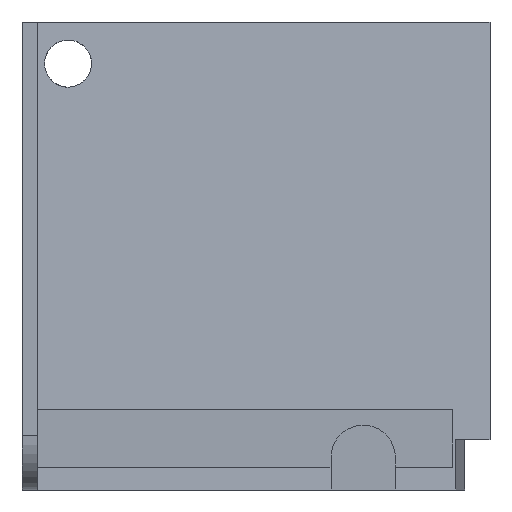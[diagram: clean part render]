
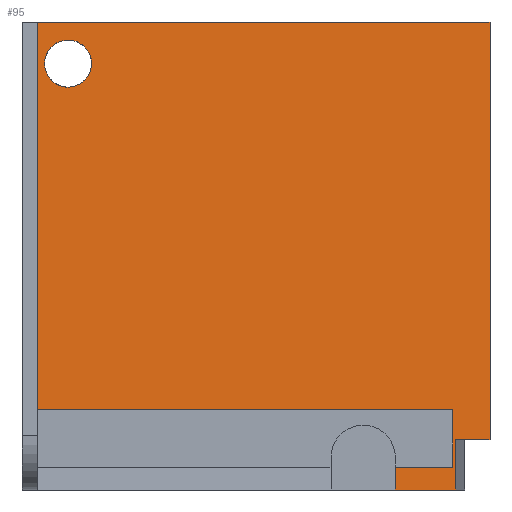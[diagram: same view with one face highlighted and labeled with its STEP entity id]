
A CAD part, left-side view. The second image highlights one B-rep face of the part: STEP entity #95.
In plain terms, the highlighted planar face has unit normal (-0.998, 0, 0.068).
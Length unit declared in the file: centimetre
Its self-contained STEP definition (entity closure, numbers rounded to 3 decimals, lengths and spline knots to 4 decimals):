
#19 = CARTESIAN_POINT ( 'NONE',  ( 201.3364, 0., 107.3894 ) ) ;
#24 = CARTESIAN_POINT ( 'NONE',  ( 194.0356, 967.6512, 0. ) ) ;
#32 = FACE_OUTER_BOUND ( 'NONE', #216, .T. ) ;
#48 = EDGE_CURVE ( 'NONE', #558, #1095, #749, .T. ) ;
#52 = DIRECTION ( 'NONE',  ( 0., -1., 0. ) ) ;
#62 = CARTESIAN_POINT ( 'NONE',  ( 201.3364, 73.1884, 107.3894 ) ) ;
#95 = ADVANCED_FACE ( 'NONE', ( #941, #32 ), #450, .F. ) ;
#129 = CARTESIAN_POINT ( 'NONE',  ( 262.0203, 967.6512, 1000. ) ) ;
#134 = DIRECTION ( 'NONE',  ( -0.068, 0., -0.998 ) ) ;
#138 = LINE ( 'NONE', #1058, #237 ) ;
#145 = DIRECTION ( 'NONE',  ( 0.068, 0., 0.998 ) ) ;
#216 = EDGE_LOOP ( 'NONE', ( #1171, #283, #634, #678, #810, #322, #983, #1193, #644, #312 ) ) ;
#217 = VERTEX_POINT ( 'NONE', #1170 ) ;
#227 = DIRECTION ( 'NONE',  ( 0., -1., 0. ) ) ;
#235 = CARTESIAN_POINT ( 'NONE',  ( 252.5554, 801.0159, 860.779 ) ) ;
#237 = VECTOR ( 'NONE', #52, 100. ) ;
#238 = DIRECTION ( 'NONE',  ( 0., -1., 0. ) ) ;
#240 = VERTEX_POINT ( 'NONE', #959 ) ;
#265 = ORIENTED_EDGE ( 'NONE', *, *, #1112, .F. ) ;
#276 = VERTEX_POINT ( 'NONE', #494 ) ;
#283 = ORIENTED_EDGE ( 'NONE', *, *, #898, .T. ) ;
#284 = VECTOR ( 'NONE', #238, 100. ) ;
#312 = ORIENTED_EDGE ( 'NONE', *, *, #431, .F. ) ;
#322 = ORIENTED_EDGE ( 'NONE', *, *, #48, .T. ) ;
#326 = CARTESIAN_POINT ( 'NONE',  ( 259.392, 901.5764, 961.3395 ) ) ;
#327 = LINE ( 'NONE', #24, #284 ) ;
#337 = DIRECTION ( 'NONE',  ( 0.998, 0., -0.068 ) ) ;
#339 = DIRECTION ( 'NONE',  ( 0., 1., 0. ) ) ;
#340 = CARTESIAN_POINT ( 'NONE',  ( 262.0203, 967.6512, 1000. ) ) ;
#363 = VERTEX_POINT ( 'NONE', #508 ) ;
#394 = CARTESIAN_POINT ( 'NONE',  ( 252.5554, 1002.1368, 860.779 ) ) ;
#406 = LINE ( 'NONE', #19, #771 ) ;
#410 = EDGE_CURVE ( 'NONE', #627, #1095, #1224, .T. ) ;
#431 = EDGE_CURVE ( 'NONE', #984, #240, #803, .T. ) ;
#445 = CARTESIAN_POINT ( 'NONE',  ( 196.4627, 202.2707, 35.7004 ) ) ;
#450 = PLANE ( 'NONE',  #1096 ) ;
#452 = EDGE_CURVE ( 'NONE', #821, #504, #629, .T. ) ;
#460 = CARTESIAN_POINT ( 'NONE',  ( 252.5554, 901.5764, 860.779 ) ) ;
#467 = CARTESIAN_POINT ( 'NONE',  ( 197.3414, 202.2707, 48.6257 ) ) ;
#494 = CARTESIAN_POINT ( 'NONE',  ( 201.3364, 0., 107.3894 ) ) ;
#495 = CARTESIAN_POINT ( 'NONE',  ( 259.392, 1002.1368, 961.3395 ) ) ;
#504 = VERTEX_POINT ( 'NONE', #340 ) ;
#506 = DIRECTION ( 'NONE',  ( 0., 1., 0. ) ) ;
#508 = CARTESIAN_POINT ( 'NONE',  ( 259.392, 901.5764, 961.3395 ) ) ;
#525 = CARTESIAN_POINT ( 'NONE',  ( 259.392, 901.5764, 961.3395 ) ) ;
#531 = CARTESIAN_POINT ( 'NONE',  ( 205.7079, 80.086, 171.6905 ) ) ;
#543 = VECTOR ( 'NONE', #1137, 100. ) ;
#551 = CARTESIAN_POINT ( 'NONE',  ( 252.5554, 901.5764, 860.779 ) ) ;
#554 = CARTESIAN_POINT ( 'NONE',  ( 259.392, 801.0159, 961.3395 ) ) ;
#558 = VERTEX_POINT ( 'NONE', #766 ) ;
#600 =( BOUNDED_CURVE ( )  B_SPLINE_CURVE ( 3, ( #525, #495, #394, #1196 ),
 .UNSPECIFIED., .F., .F. ) 
 B_SPLINE_CURVE_WITH_KNOTS ( ( 4, 4 ),
 ( 0., 3.1416 ),
 .UNSPECIFIED. ) 
 CURVE ( )  GEOMETRIC_REPRESENTATION_ITEM ( )  RATIONAL_B_SPLINE_CURVE ( ( 1., 0.333, 0.333, 1. ) ) 
 REPRESENTATION_ITEM ( '' )  );
#617 = VECTOR ( 'NONE', #145, 100. ) ;
#627 = VERTEX_POINT ( 'NONE', #467 ) ;
#629 = LINE ( 'NONE', #129, #1270 ) ;
#634 = ORIENTED_EDGE ( 'NONE', *, *, #1176, .F. ) ;
#636 = LINE ( 'NONE', #445, #617 ) ;
#644 = ORIENTED_EDGE ( 'NONE', *, *, #939, .T. ) ;
#663 = VECTOR ( 'NONE', #227, 100. ) ;
#678 = ORIENTED_EDGE ( 'NONE', *, *, #452, .F. ) ;
#697 = EDGE_LOOP ( 'NONE', ( #750, #265 ) ) ;
#714 = CARTESIAN_POINT ( 'NONE',  ( 202.7159, 73.1013, 127.6807 ) ) ;
#720 = CARTESIAN_POINT ( 'NONE',  ( 197.3414, 80.086, 48.6257 ) ) ;
#733 = VERTEX_POINT ( 'NONE', #910 ) ;
#740 = DIRECTION ( 'NONE',  ( -0.068, 0., -0.998 ) ) ;
#748 = VECTOR ( 'NONE', #134, 100. ) ;
#749 = LINE ( 'NONE', #1229, #748 ) ;
#750 = ORIENTED_EDGE ( 'NONE', *, *, #1154, .F. ) ;
#751 = EDGE_CURVE ( 'NONE', #276, #984, #406, .T. ) ;
#766 = CARTESIAN_POINT ( 'NONE',  ( 205.7079, 80.086, 171.6905 ) ) ;
#771 = VECTOR ( 'NONE', #506, 100. ) ;
#803 = LINE ( 'NONE', #714, #1103 ) ;
#810 = ORIENTED_EDGE ( 'NONE', *, *, #839, .F. ) ;
#821 = VERTEX_POINT ( 'NONE', #953 ) ;
#826 = CARTESIAN_POINT ( 'NONE',  ( 262.0203, 0., 1000. ) ) ;
#837 = CARTESIAN_POINT ( 'NONE',  ( 262.0203, 967.6512, 1000. ) ) ;
#839 = EDGE_CURVE ( 'NONE', #558, #821, #1240, .T. ) ;
#853 = EDGE_CURVE ( 'NONE', #733, #627, #636, .T. ) ;
#898 = EDGE_CURVE ( 'NONE', #276, #217, #1132, .T. ) ;
#910 = CARTESIAN_POINT ( 'NONE',  ( 194.0356, 202.2707, 0. ) ) ;
#928 = CARTESIAN_POINT ( 'NONE',  ( 197.3414, 80.086, 48.6257 ) ) ;
#937 = DIRECTION ( 'NONE',  ( 0.068, 0., 0.998 ) ) ;
#939 = EDGE_CURVE ( 'NONE', #733, #240, #327, .T. ) ;
#941 = FACE_BOUND ( 'NONE', #697, .T. ) ;
#953 = CARTESIAN_POINT ( 'NONE',  ( 205.7079, 967.6512, 171.6905 ) ) ;
#959 = CARTESIAN_POINT ( 'NONE',  ( 194.0356, 73.6492, 0. ) ) ;
#983 = ORIENTED_EDGE ( 'NONE', *, *, #410, .F. ) ;
#984 = VERTEX_POINT ( 'NONE', #62 ) ;
#1027 = DIRECTION ( 'NONE',  ( -0.068, 0.004, -0.998 ) ) ;
#1058 = CARTESIAN_POINT ( 'NONE',  ( 262.0203, 967.6512, 1000. ) ) ;
#1095 = VERTEX_POINT ( 'NONE', #928 ) ;
#1096 = AXIS2_PLACEMENT_3D ( 'NONE', #837, #337, #740 ) ;
#1103 = VECTOR ( 'NONE', #1027, 100. ) ;
#1112 = EDGE_CURVE ( 'NONE', #363, #1286, #600, .T. ) ;
#1132 = LINE ( 'NONE', #826, #543 ) ;
#1137 = DIRECTION ( 'NONE',  ( 0.068, 0., 0.998 ) ) ;
#1154 = EDGE_CURVE ( 'NONE', #1286, #363, #1180, .T. ) ;
#1170 = CARTESIAN_POINT ( 'NONE',  ( 262.0203, 0., 1000. ) ) ;
#1171 = ORIENTED_EDGE ( 'NONE', *, *, #751, .F. ) ;
#1176 = EDGE_CURVE ( 'NONE', #504, #217, #138, .T. ) ;
#1180 =( BOUNDED_CURVE ( )  B_SPLINE_CURVE ( 3, ( #551, #235, #554, #326 ),
 .UNSPECIFIED., .F., .F. ) 
 B_SPLINE_CURVE_WITH_KNOTS ( ( 4, 4 ),
 ( 3.1416, 6.2832 ),
 .UNSPECIFIED. ) 
 CURVE ( )  GEOMETRIC_REPRESENTATION_ITEM ( )  RATIONAL_B_SPLINE_CURVE ( ( 1., 0.333, 0.333, 1. ) ) 
 REPRESENTATION_ITEM ( '' )  );
#1187 = VECTOR ( 'NONE', #339, 100. ) ;
#1193 = ORIENTED_EDGE ( 'NONE', *, *, #853, .F. ) ;
#1196 = CARTESIAN_POINT ( 'NONE',  ( 252.5554, 901.5764, 860.779 ) ) ;
#1224 = LINE ( 'NONE', #720, #663 ) ;
#1229 = CARTESIAN_POINT ( 'NONE',  ( 193.1429, 80.086, -13.1308 ) ) ;
#1240 = LINE ( 'NONE', #531, #1187 ) ;
#1270 = VECTOR ( 'NONE', #937, 100. ) ;
#1286 = VERTEX_POINT ( 'NONE', #460 ) ;
